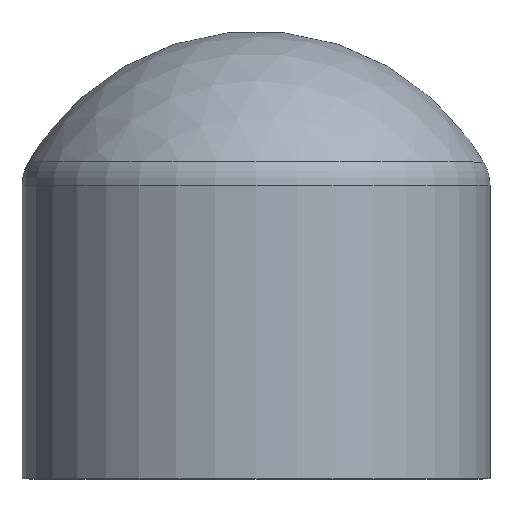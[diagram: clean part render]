
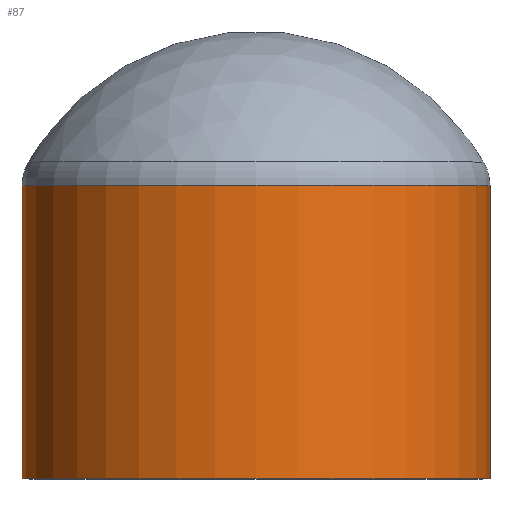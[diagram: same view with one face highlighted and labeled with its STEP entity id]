
A CAD part, top view. The second image highlights one B-rep face of the part: STEP entity #87.
In plain terms, the highlighted cylindrical face has radius 11.5 mm (diameter 23 mm), a full revolution.
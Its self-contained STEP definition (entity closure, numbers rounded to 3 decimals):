
#20=CYLINDRICAL_SURFACE('',#98,11.5);
#23=FACE_BOUND('',#37,.T.);
#28=FACE_OUTER_BOUND('',#36,.T.);
#36=EDGE_LOOP('',(#71));
#37=EDGE_LOOP('',(#72));
#46=CIRCLE('',#96,11.5);
#48=CIRCLE('',#99,11.5);
#53=VERTEX_POINT('',#138);
#55=VERTEX_POINT('',#143);
#61=EDGE_CURVE('',#53,#53,#46,.T.);
#63=EDGE_CURVE('',#55,#55,#48,.T.);
#71=ORIENTED_EDGE('',*,*,#63,.T.);
#72=ORIENTED_EDGE('',*,*,#61,.F.);
#87=ADVANCED_FACE('',(#28,#23),#20,.T.);
#96=AXIS2_PLACEMENT_3D('',#139,#112,#113);
#98=AXIS2_PLACEMENT_3D('',#142,#116,#117);
#99=AXIS2_PLACEMENT_3D('',#144,#118,#119);
#112=DIRECTION('center_axis',(0.,1.,0.));
#113=DIRECTION('ref_axis',(1.,0.,0.));
#116=DIRECTION('center_axis',(0.,1.,0.));
#117=DIRECTION('ref_axis',(-1.,0.,0.));
#118=DIRECTION('center_axis',(0.,1.,0.));
#119=DIRECTION('ref_axis',(1.,0.,0.));
#138=CARTESIAN_POINT('',(-11.5,14.411,0.));
#139=CARTESIAN_POINT('Origin',(0.,14.411,0.));
#142=CARTESIAN_POINT('Origin',(0.,7.5,0.));
#143=CARTESIAN_POINT('',(-11.5,0.,0.));
#144=CARTESIAN_POINT('Origin',(0.,0.,0.));
